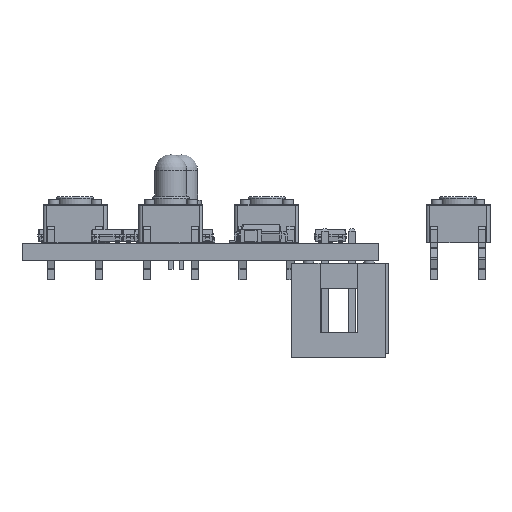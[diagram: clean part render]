
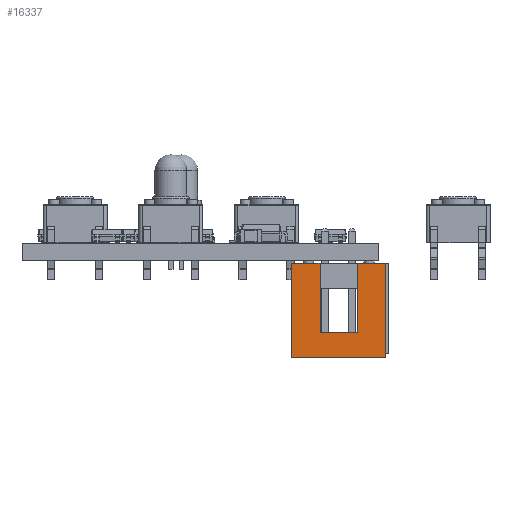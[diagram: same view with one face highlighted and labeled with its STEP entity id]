
A CAD part, left-side view. The second image highlights one B-rep face of the part: STEP entity #16337.
In plain terms, the highlighted planar face has unit normal (-1, 0, 0) as drawn and (0, 1, 0) by its records, which use the part's own axes.
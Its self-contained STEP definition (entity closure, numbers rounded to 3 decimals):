
#16269 = EDGE_CURVE('',#16270,#16272,#16274,.T.);
#16270 = VERTEX_POINT('',#16271);
#16271 = CARTESIAN_POINT('',(-3.155,5.1,0.25));
#16272 = VERTEX_POINT('',#16273);
#16273 = CARTESIAN_POINT('',(-3.155,5.1,9.1));
#16274 = LINE('',#16275,#16276);
#16275 = CARTESIAN_POINT('',(-3.155,5.1,0.25));
#16276 = VECTOR('',#16277,1.);
#16277 = DIRECTION('',(0.,0.,1.));
#16337 = ADVANCED_FACE('',(#16338),#16395,.T.);
#16338 = FACE_BOUND('',#16339,.T.);
#16339 = EDGE_LOOP('',(#16340,#16350,#16358,#16366,#16374,#16382,#16388,
    #16389));
#16340 = ORIENTED_EDGE('',*,*,#16341,.F.);
#16341 = EDGE_CURVE('',#16342,#16344,#16346,.T.);
#16342 = VERTEX_POINT('',#16343);
#16343 = CARTESIAN_POINT('',(5.695,5.1,0.25));
#16344 = VERTEX_POINT('',#16345);
#16345 = CARTESIAN_POINT('',(5.695,5.1,9.1));
#16346 = LINE('',#16347,#16348);
#16347 = CARTESIAN_POINT('',(5.695,5.1,0.25));
#16348 = VECTOR('',#16349,1.);
#16349 = DIRECTION('',(0.,0.,1.));
#16350 = ORIENTED_EDGE('',*,*,#16351,.T.);
#16351 = EDGE_CURVE('',#16342,#16352,#16354,.T.);
#16352 = VERTEX_POINT('',#16353);
#16353 = CARTESIAN_POINT('',(3.02,5.1,0.25));
#16354 = LINE('',#16355,#16356);
#16355 = CARTESIAN_POINT('',(5.695,5.1,0.25));
#16356 = VECTOR('',#16357,1.);
#16357 = DIRECTION('',(-1.,0.,0.));
#16358 = ORIENTED_EDGE('',*,*,#16359,.T.);
#16359 = EDGE_CURVE('',#16352,#16360,#16362,.T.);
#16360 = VERTEX_POINT('',#16361);
#16361 = CARTESIAN_POINT('',(3.02,5.1,6.75));
#16362 = LINE('',#16363,#16364);
#16363 = CARTESIAN_POINT('',(3.02,5.1,2.463));
#16364 = VECTOR('',#16365,1.);
#16365 = DIRECTION('',(0.,0.,1.));
#16366 = ORIENTED_EDGE('',*,*,#16367,.F.);
#16367 = EDGE_CURVE('',#16368,#16360,#16370,.T.);
#16368 = VERTEX_POINT('',#16369);
#16369 = CARTESIAN_POINT('',(-0.48,5.1,6.75));
#16370 = LINE('',#16371,#16372);
#16371 = CARTESIAN_POINT('',(1.27,5.1,6.75));
#16372 = VECTOR('',#16373,1.);
#16373 = DIRECTION('',(1.,0.,0.));
#16374 = ORIENTED_EDGE('',*,*,#16375,.T.);
#16375 = EDGE_CURVE('',#16368,#16376,#16378,.T.);
#16376 = VERTEX_POINT('',#16377);
#16377 = CARTESIAN_POINT('',(-0.48,5.1,0.25));
#16378 = LINE('',#16379,#16380);
#16379 = CARTESIAN_POINT('',(-0.48,5.1,2.463));
#16380 = VECTOR('',#16381,1.);
#16381 = DIRECTION('',(0.,0.,-1.));
#16382 = ORIENTED_EDGE('',*,*,#16383,.T.);
#16383 = EDGE_CURVE('',#16376,#16270,#16384,.T.);
#16384 = LINE('',#16385,#16386);
#16385 = CARTESIAN_POINT('',(5.695,5.1,0.25));
#16386 = VECTOR('',#16387,1.);
#16387 = DIRECTION('',(-1.,0.,0.));
#16388 = ORIENTED_EDGE('',*,*,#16269,.T.);
#16389 = ORIENTED_EDGE('',*,*,#16390,.F.);
#16390 = EDGE_CURVE('',#16344,#16272,#16391,.T.);
#16391 = LINE('',#16392,#16393);
#16392 = CARTESIAN_POINT('',(5.695,5.1,9.1));
#16393 = VECTOR('',#16394,1.);
#16394 = DIRECTION('',(-1.,0.,0.));
#16395 = PLANE('',#16396);
#16396 = AXIS2_PLACEMENT_3D('',#16397,#16398,#16399);
#16397 = CARTESIAN_POINT('',(1.27,5.1,4.675));
#16398 = DIRECTION('',(0.,1.,0.));
#16399 = DIRECTION('',(0.,0.,1.));
